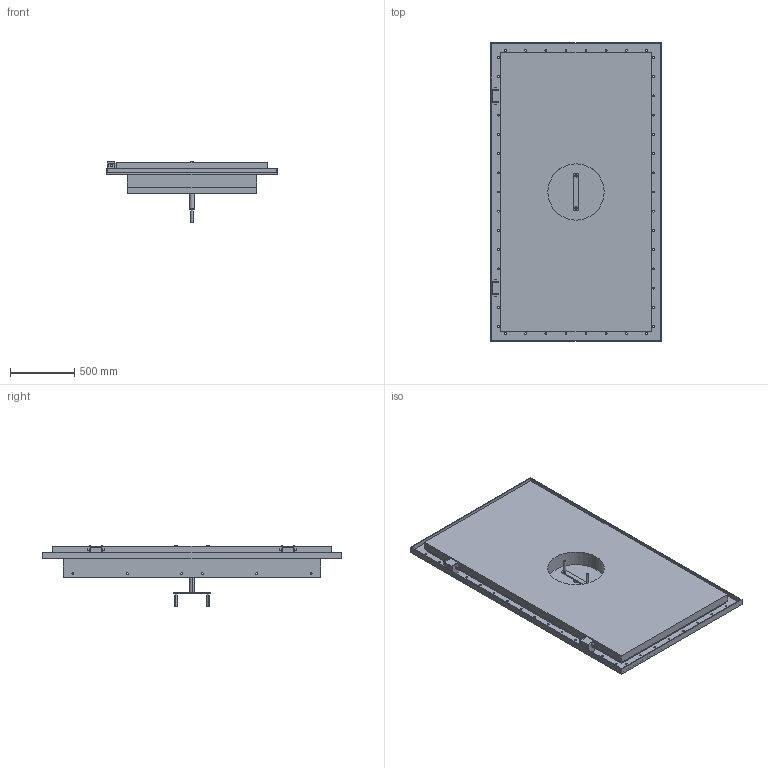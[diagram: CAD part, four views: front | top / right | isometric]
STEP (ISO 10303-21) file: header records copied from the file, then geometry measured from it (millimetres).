
FILE_DESCRIPTION((''),'2;1');
FILE_NAME('51852092','2022-06-03T09:51:41',('ka'),('HUBER SE'),'CREO PARAMETRIC BY PTC INC, 2021304','CREO PARAMETRIC BY PTC INC, 2021304','');
FILE_SCHEMA(('AUTOMOTIVE_DESIGN { 1 0 10303 214 1 1 1 1 }'));
Length unit declared in the file: millimetre
Products named in the file (1): 51852092
Bounding box: 1332 x 2332 x 480 mm (x, y, z)
Volume: 449701566.1 mm3; surface area: 9007354.2 mm2
Topology: 1 solids, 1 shells, 226 faces, 719 edges, 505 vertices
Faces by surface type: cylinder 138, plane 88
Entity records: 10020 total; most frequent: CARTESIAN_POINT 1575, DIRECTION 1500, ORIENTED_EDGE 1236, EDGE_CURVE 618, AXIS2_PLACEMENT_3D 520, VECTOR 457, LINE 457, VERTEX_POINT 404
